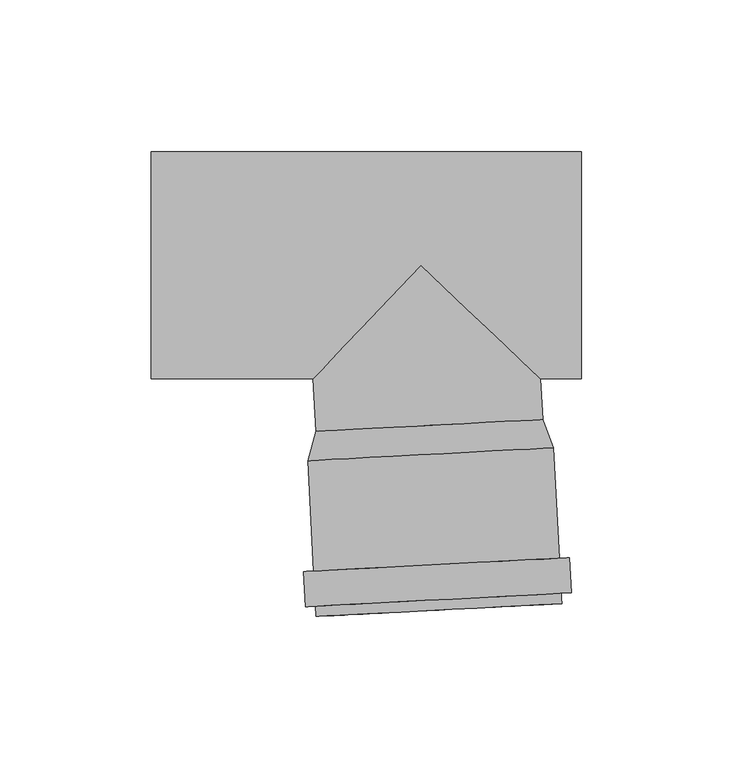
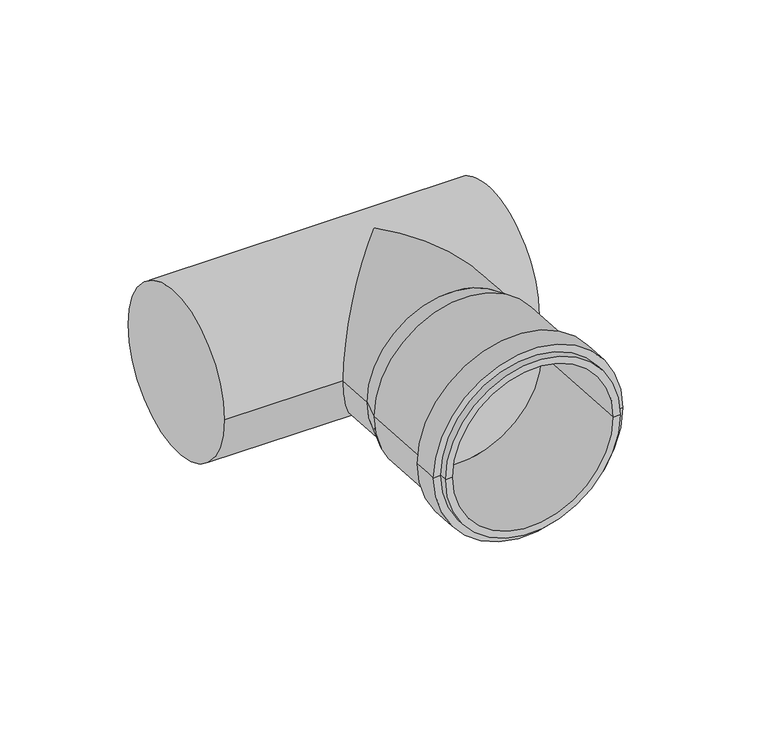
"""IFC4 building model written with IfcOpenShell, lengths in millimetres: pipe fitting geometry, pf_HTEA : pf_HTEA."""

from ifc_helpers import new_model, si_unit, frame, origin, place, context, project, spatial, polyline, circle_curve, ellipse_curve, source, transform, mapped, element, save
from ifc_brep_helpers import plane_surface, cylinder_surface, revolved_surface, advanced_brep


def pipe_fitting_2f1c8c0b(model_context):
    return source(origin(), model_context, "Body", "AdvancedBrep", [
        advanced_brep(
        [(-34.6748019, -54.8899637, 0.0), (40.2224132, -50.964767, 0.0), (43.8153564, -60.2895061, 0.0), (-37.2733618, -64.5391857, 0.0), (2.7738057, -52.9273653, 0.0), (-34.5780601, -115.9686068, 0.0), (46.5106581, -111.7189271, 0.0), (43.4149066, -111.8811686, 0.0), (-31.4823085, -115.8063653, 0.0), (-34.7560024, -112.5732664, 0.0), (46.3327159, -108.3235867, 0.0), (-38.1513428, -112.7512086, 0.0), (49.7280563, -108.1456445, 0.0), (-38.7584399, -101.167106, 0.0), (49.1209592, -96.5615419, 0.0), (-35.3630994, -100.9891638, 0.0), (45.7256188, -96.7394841, 0.0), (-34.1776103, -64.3769443, 0.0), (40.7196048, -60.4517476, 0.0), (3.2709973, -62.4143459, 0.0)],
        [
            (0, 1, circle_curve(frame((2.7738057, -52.9273653, 0.0), z_axis=(0.0523359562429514, -0.9986295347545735, 0.0), x_axis=(0.9986295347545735, 0.0523359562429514, 0.0)), 37.5)),
            (1, 2),
            (2, 3, circle_curve(frame((3.2709973, -62.4143459, 0.0), z_axis=(-0.0523359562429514, 0.9986295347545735, 0.0), x_axis=(0.9986295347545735, 0.0523359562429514, 0.0)), 40.6)),
            (3, 0),
            (1, 0, circle_curve(frame((2.7738057, -52.9273653, 0.0), z_axis=(0.0523359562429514, -0.9986295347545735, 0.0), x_axis=(0.9986295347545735, 0.0523359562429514, 0.0)), 37.5)),
            (3, 2, circle_curve(frame((3.2709973, -62.4143459, 0.0), z_axis=(-0.0523359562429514, 0.9986295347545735, 0.0), x_axis=(0.9986295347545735, 0.0523359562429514, 0.0)), 40.6)),
            (4, 1),
            (0, 4),
            (5, 6, circle_curve(frame((5.966299, -113.843767, 0.0), z_axis=(0.0523359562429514, -0.9986295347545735, 0.0), x_axis=(0.9986295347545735, 0.0523359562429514, 0.0)), 40.6)),
            (6, 7),
            (7, 8, circle_curve(frame((5.966299, -113.843767, 0.0), z_axis=(-0.0523359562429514, 0.9986295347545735, 0.0), x_axis=(0.9986295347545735, 0.0523359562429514, 0.0)), 37.5)),
            (8, 5),
            (6, 5, circle_curve(frame((5.966299, -113.843767, 0.0), z_axis=(0.0523359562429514, -0.9986295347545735, 0.0), x_axis=(0.9986295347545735, 0.0523359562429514, 0.0)), 40.6)),
            (8, 7, circle_curve(frame((5.966299, -113.843767, 0.0), z_axis=(-0.0523359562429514, 0.9986295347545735, 0.0), x_axis=(0.9986295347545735, 0.0523359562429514, 0.0)), 37.5)),
            (9, 10, circle_curve(frame((5.7883568, -110.4484265, 0.0), z_axis=(0.0523359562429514, -0.9986295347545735, 0.0), x_axis=(0.9986295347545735, 0.0523359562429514, 0.0)), 40.6)),
            (10, 6),
            (5, 9),
            (10, 9, circle_curve(frame((5.7883568, -110.4484265, 0.0), z_axis=(0.0523359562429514, -0.9986295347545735, 0.0), x_axis=(0.9986295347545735, 0.0523359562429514, 0.0)), 40.6)),
            (11, 12, circle_curve(frame((5.7883568, -110.4484265, 0.0), z_axis=(0.0523359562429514, -0.9986295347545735, 0.0), x_axis=(0.9986295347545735, 0.0523359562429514, 0.0)), 44.0)),
            (12, 10),
            (9, 11),
            (12, 11, circle_curve(frame((5.7883568, -110.4484265, 0.0), z_axis=(0.0523359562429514, -0.9986295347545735, 0.0), x_axis=(0.9986295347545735, 0.0523359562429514, 0.0)), 44.0)),
            (13, 14, circle_curve(frame((5.1812597, -98.8643239, 0.0), z_axis=(0.0523359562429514, -0.9986295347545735, 0.0), x_axis=(0.9986295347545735, 0.0523359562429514, 0.0)), 44.0)),
            (14, 12),
            (11, 13),
            (14, 13, circle_curve(frame((5.1812597, -98.8643239, 0.0), z_axis=(0.0523359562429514, -0.9986295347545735, 0.0), x_axis=(0.9986295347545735, 0.0523359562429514, 0.0)), 44.0)),
            (15, 16, circle_curve(frame((5.1812597, -98.8643239, 0.0), z_axis=(0.0523359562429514, -0.9986295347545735, 0.0), x_axis=(0.9986295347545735, 0.0523359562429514, 0.0)), 40.6)),
            (16, 14),
            (13, 15),
            (16, 15, circle_curve(frame((5.1812597, -98.8643239, 0.0), z_axis=(0.0523359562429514, -0.9986295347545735, 0.0), x_axis=(0.9986295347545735, 0.0523359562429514, 0.0)), 40.6)),
            (2, 16),
            (15, 3),
            (17, 18, circle_curve(frame((3.2709973, -62.4143459, 0.0), z_axis=(0.0523359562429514, -0.9986295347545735, 0.0), x_axis=(0.9986295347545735, 0.0523359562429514, 0.0)), 37.5)),
            (18, 19),
            (19, 17),
            (18, 17, circle_curve(frame((3.2709973, -62.4143459, 0.0), z_axis=(0.0523359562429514, -0.9986295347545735, 0.0), x_axis=(0.9986295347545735, 0.0523359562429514, 0.0)), 37.5)),
            (7, 18),
            (17, 8),
        ],
        [
            revolved_surface(polyline([(43.8153564, -60.2895061, 0.0), (40.2224132, -50.964767, 0.0)]), (2.7738057, -52.9273653, 0.0), (-0.0523359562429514, 0.9986295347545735, 0.0)),
            plane_surface(frame((2.7738057, -52.9273653, 0.0), z_axis=(-0.0523359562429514, 0.9986295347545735, 0.0), x_axis=(0.9986295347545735, 0.0523359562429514, 0.0))),
            plane_surface(frame((5.966299, -113.843767, 0.0), z_axis=(0.0523359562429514, -0.9986295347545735, 0.0), x_axis=(0.9986295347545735, 0.0523359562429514, 0.0))),
            cylinder_surface(frame((2.7738057, -52.9273653, 0.0), z_axis=(-0.0523359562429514, 0.9986295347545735, 0.0), x_axis=(0.9986295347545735, 0.0523359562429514, 0.0)), 40.6),
            plane_surface(frame((5.7883568, -110.4484265, 0.0), z_axis=(0.0523359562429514, -0.9986295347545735, 0.0), x_axis=(0.9986295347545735, 0.0523359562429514, 0.0))),
            cylinder_surface(frame((2.7738057, -52.9273653, 0.0), z_axis=(-0.0523359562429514, 0.9986295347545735, 0.0), x_axis=(0.9986295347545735, 0.0523359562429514, 0.0)), 44.0),
            plane_surface(frame((5.1812597, -98.8643239, 0.0), z_axis=(-0.0523359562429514, 0.9986295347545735, 0.0), x_axis=(0.9986295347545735, 0.0523359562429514, 0.0))),
            plane_surface(frame((3.2709973, -62.4143459, 0.0), z_axis=(0.0523359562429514, -0.9986295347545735, 0.0), x_axis=(0.9986295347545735, 0.0523359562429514, 0.0))),
            revolved_surface(polyline([(40.719604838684, -60.45174754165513, 0.0), (43.41490658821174, -111.8811686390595, 0.0)]), (2.7738057, -52.9273653, 0.0), (-0.0523359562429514, 0.9986295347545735, 0.0)),
        ],
        [
            (0, [[1, 2, 3, 4]]),
            (0, [[5, -4, 6, -2]]),
            (1, [[7, -1, 8]]),
            (1, [[-8, -5, -7]]),
            (2, [[9, 10, 11, 12]]),
            (2, [[13, -12, 14, -10]]),
            (3, [[15, 16, -9, 17]]),
            (3, [[18, -17, -13, -16]]),
            (4, [[19, 20, -15, 21]]),
            (4, [[22, -21, -18, -20]]),
            (5, [[23, 24, -19, 25]]),
            (5, [[26, -25, -22, -24]]),
            (6, [[27, 28, -23, 29]]),
            (6, [[30, -29, -26, -28]]),
            (3, [[-3, 31, -27, 32]]),
            (3, [[-6, -32, -30, -31]]),
            (7, [[33, 34, 35]]),
            (7, [[36, -35, -34]]),
            (8, [[-11, 37, -33, 38]]),
            (8, [[-14, -38, -36, -37]]),
        ],
    ),
        advanced_brep(
        [(-34.6748019, -54.8899637, 0.0), (40.2224132, -50.964767, 0.0), (-89.0, -37.5, 0.0), (-89.0, 37.5, 0.0), (53.0, -37.5, 0.0), (53.0, 37.5, 0.0), (-35.5861713, -37.5, 0.0), (0.0, 0.0, 37.5), (39.5167547, -37.5, 0.0), (0.0, 0.0, -37.5)],
        [
            (0, 1, circle_curve(frame((2.7738057, -52.9273653, 0.0), z_axis=(0.05233595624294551, -0.9986295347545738, 0.0), x_axis=(0.9986295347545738, 0.05233595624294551, 0.0)), 37.5)),
            (1, 0, circle_curve(frame((2.7738057, -52.9273653, 0.0), z_axis=(0.05233595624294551, -0.9986295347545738, 0.0), x_axis=(0.9986295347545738, 0.05233595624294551, 0.0)), 37.5)),
            (2, 3, circle_curve(frame((-89.0, 0.0, 0.0), z_axis=(-1.0, 0.0, 0.0), x_axis=(0.0, 1.0, 0.0)), 37.5)),
            (3, 2, circle_curve(frame((-89.0, 0.0, 0.0), z_axis=(-1.0, 0.0, 0.0), x_axis=(0.0, 1.0, 0.0)), 37.5)),
            (4, 5, circle_curve(frame((53.0, 0.0, 0.0), z_axis=(1.0, 0.0, 0.0), x_axis=(0.0, 1.0, 0.0)), 37.5)),
            (5, 4, circle_curve(frame((53.0, 0.0, 0.0), z_axis=(1.0, 0.0, 0.0), x_axis=(0.0, 1.0, 0.0)), 37.5)),
            (2, 6),
            (6, 7, ellipse_curve(frame((0.0, 0.0, 0.0), z_axis=(-0.7253743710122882, 0.6883545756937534, 0.0), x_axis=(-0.6883545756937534, -0.7253743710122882, 0.0)), 51.6974427, 37.5)),
            (7, 8, ellipse_curve(frame((0.0, 0.0, 0.0), z_axis=(0.6883545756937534, 0.7253743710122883, 0.0), x_axis=(-0.7253743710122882, 0.6883545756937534, 0.0)), 54.4777377, 37.5)),
            (8, 4),
            (5, 3),
            (8, 9, ellipse_curve(frame((0.0, 0.0, 0.0), z_axis=(0.6883545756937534, 0.7253743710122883, 0.0), x_axis=(-0.7253743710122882, 0.6883545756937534, 0.0)), 54.4777377, 37.5)),
            (9, 6, ellipse_curve(frame((0.0, 0.0, 0.0), z_axis=(-0.7253743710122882, 0.6883545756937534, 0.0), x_axis=(-0.6883545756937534, -0.7253743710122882, 0.0)), 51.6974427, 37.5)),
            (1, 8),
            (6, 0),
        ],
        [
            plane_surface(frame((2.7738057, -52.9273653, 0.0), z_axis=(0.05233595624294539, -0.9986295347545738, 0.0), x_axis=(0.0, 0.0, 1.0))),
            plane_surface(frame((-89.0, 0.0, 0.0), z_axis=(-1.0, 0.0, 0.0), x_axis=(0.0, 0.0, 1.0))),
            plane_surface(frame((53.0, 0.0, 0.0), z_axis=(1.0, 0.0, 0.0), x_axis=(0.0, 0.0, 1.0))),
            cylinder_surface(frame((-89.0, 0.0, 0.0), z_axis=(-1.0, 0.0, 0.0), x_axis=(0.0, 1.0, 0.0)), 37.5),
            cylinder_surface(frame((0.0, 0.0, 0.0), z_axis=(-0.05233595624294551, 0.9986295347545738, 0.0), x_axis=(0.9986295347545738, 0.05233595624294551, 0.0)), 37.5),
        ],
        [
            (0, [[1, 2]]),
            (1, [[3, 4]]),
            (2, [[5, 6]]),
            (3, [[-3, 7, 8, 9, 10, -6, 11]]),
            (3, [[-4, -11, -5, -10, 12, 13, -7]]),
            (4, [[-2, 14, -9, -8, 15]]),
            (4, [[-1, -15, -13, -12, -14]]),
        ],
    ),
    ])


if __name__ == "__main__":
    model = new_model("IFC4")
    model_context = context("Model", 3, world=origin())
    ifc_project = project(units=[si_unit("LENGTHUNIT", "METRE", prefix="MILLI")], contexts=[model_context])
    site = spatial("IfcSite", under=ifc_project)
    building = spatial("IfcBuilding", under=site)
    placement = place(None, origin())
    pipe_fitting_shape = pipe_fitting_2f1c8c0b(model_context)
    element("IfcPipeFitting", 1, ObjectType="pf_HTEA : pf_HTEA", at=placement, inside=building, context=model_context, shape_type="MappedRepresentation", body=[
        mapped(pipe_fitting_shape, transform((0.0, 0.0, 0.0), x_axis=(1.0, 0.0, 0.0), y_axis=(0.0, 1.0, 0.0), z_axis=(0.0, 0.0, 1.0))),
    ])
    save(model, "model.ifc")
